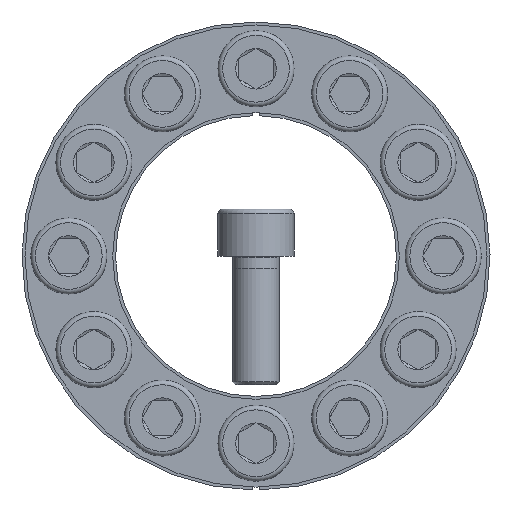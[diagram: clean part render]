
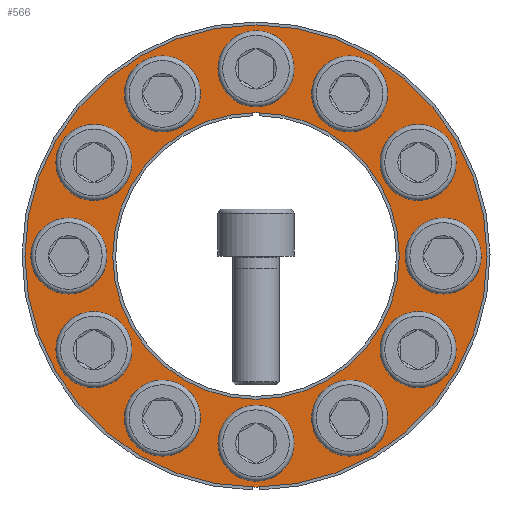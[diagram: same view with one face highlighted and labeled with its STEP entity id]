
A CAD part, front view. The second image highlights one B-rep face of the part: STEP entity #566.
In plain terms, the highlighted planar face has unit normal (0, -1, 0).
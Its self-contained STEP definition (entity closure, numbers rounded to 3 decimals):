
#566 = ADVANCED_FACE( '', ( #1068, #1069, #1070, #1071, #1072, #1073, #1074, #1075, #1076, #1077, #1078, #1079, #1080, #1081 ), #1082, .T. );
#1068 = FACE_BOUND( '', #1929, .T. );
#1069 = FACE_BOUND( '', #1930, .T. );
#1070 = FACE_BOUND( '', #1931, .T. );
#1071 = FACE_BOUND( '', #1932, .T. );
#1072 = FACE_BOUND( '', #1933, .T. );
#1073 = FACE_BOUND( '', #1934, .T. );
#1074 = FACE_BOUND( '', #1935, .T. );
#1075 = FACE_BOUND( '', #1936, .T. );
#1076 = FACE_BOUND( '', #1937, .T. );
#1077 = FACE_BOUND( '', #1938, .T. );
#1078 = FACE_BOUND( '', #1939, .T. );
#1079 = FACE_BOUND( '', #1940, .T. );
#1080 = FACE_BOUND( '', #1941, .T. );
#1081 = FACE_OUTER_BOUND( '', #1942, .T. );
#1082 = PLANE( '', #1943 );
#1929 = EDGE_LOOP( '', ( #2815 ) );
#1930 = EDGE_LOOP( '', ( #2816 ) );
#1931 = EDGE_LOOP( '', ( #2817 ) );
#1932 = EDGE_LOOP( '', ( #2818 ) );
#1933 = EDGE_LOOP( '', ( #2819 ) );
#1934 = EDGE_LOOP( '', ( #2820 ) );
#1935 = EDGE_LOOP( '', ( #2821 ) );
#1936 = EDGE_LOOP( '', ( #2822 ) );
#1937 = EDGE_LOOP( '', ( #2823 ) );
#1938 = EDGE_LOOP( '', ( #2824 ) );
#1939 = EDGE_LOOP( '', ( #2825 ) );
#1940 = EDGE_LOOP( '', ( #2826 ) );
#1941 = EDGE_LOOP( '', ( #2827 ) );
#1942 = EDGE_LOOP( '', ( #2828 ) );
#1943 = AXIS2_PLACEMENT_3D( '', #2829, #2830, #2831 );
#2815 = ORIENTED_EDGE( '', *, *, #4842, .T. );
#2816 = ORIENTED_EDGE( '', *, *, #4843, .T. );
#2817 = ORIENTED_EDGE( '', *, *, #4844, .T. );
#2818 = ORIENTED_EDGE( '', *, *, #4845, .T. );
#2819 = ORIENTED_EDGE( '', *, *, #4846, .T. );
#2820 = ORIENTED_EDGE( '', *, *, #4847, .T. );
#2821 = ORIENTED_EDGE( '', *, *, #4848, .T. );
#2822 = ORIENTED_EDGE( '', *, *, #4849, .T. );
#2823 = ORIENTED_EDGE( '', *, *, #4850, .T. );
#2824 = ORIENTED_EDGE( '', *, *, #4851, .T. );
#2825 = ORIENTED_EDGE( '', *, *, #4852, .T. );
#2826 = ORIENTED_EDGE( '', *, *, #4853, .T. );
#2827 = ORIENTED_EDGE( '', *, *, #4854, .F. );
#2828 = ORIENTED_EDGE( '', *, *, #4855, .T. );
#2829 = CARTESIAN_POINT( '', ( 0., -12., -40. ) );
#2830 = DIRECTION( '', ( 0., -1., 0. ) );
#2831 = DIRECTION( '', ( 0., 0., -1. ) );
#4842 = EDGE_CURVE( '', #5388, #5388, #5389, .T. );
#4843 = EDGE_CURVE( '', #5390, #5390, #5391, .T. );
#4844 = EDGE_CURVE( '', #5392, #5392, #5393, .T. );
#4845 = EDGE_CURVE( '', #5394, #5394, #5395, .T. );
#4846 = EDGE_CURVE( '', #5396, #5396, #5397, .T. );
#4847 = EDGE_CURVE( '', #5398, #5398, #5399, .T. );
#4848 = EDGE_CURVE( '', #5400, #5400, #5401, .T. );
#4849 = EDGE_CURVE( '', #5402, #5402, #5403, .T. );
#4850 = EDGE_CURVE( '', #5404, #5404, #5405, .T. );
#4851 = EDGE_CURVE( '', #5406, #5406, #5407, .T. );
#4852 = EDGE_CURVE( '', #5408, #5408, #5409, .T. );
#4853 = EDGE_CURVE( '', #5410, #5410, #5411, .T. );
#4854 = EDGE_CURVE( '', #5412, #5412, #5413, .T. );
#4855 = EDGE_CURVE( '', #5414, #5414, #5415, .T. );
#5388 = VERTEX_POINT( '', #6174 );
#5389 = CIRCLE( '', #6175, 4. );
#5390 = VERTEX_POINT( '', #6176 );
#5391 = CIRCLE( '', #6177, 4. );
#5392 = VERTEX_POINT( '', #6178 );
#5393 = CIRCLE( '', #6179, 4. );
#5394 = VERTEX_POINT( '', #6180 );
#5395 = CIRCLE( '', #6181, 4. );
#5396 = VERTEX_POINT( '', #6182 );
#5397 = CIRCLE( '', #6183, 4. );
#5398 = VERTEX_POINT( '', #6184 );
#5399 = CIRCLE( '', #6185, 4. );
#5400 = VERTEX_POINT( '', #6186 );
#5401 = CIRCLE( '', #6187, 4. );
#5402 = VERTEX_POINT( '', #6188 );
#5403 = CIRCLE( '', #6189, 4. );
#5404 = VERTEX_POINT( '', #6190 );
#5405 = CIRCLE( '', #6191, 4. );
#5406 = VERTEX_POINT( '', #6192 );
#5407 = CIRCLE( '', #6193, 4. );
#5408 = VERTEX_POINT( '', #6194 );
#5409 = CIRCLE( '', #6195, 4. );
#5410 = VERTEX_POINT( '', #6196 );
#5411 = CIRCLE( '', #6197, 4. );
#5412 = VERTEX_POINT( '', #6198 );
#5413 = CIRCLE( '', #6199, 24.5 );
#5414 = VERTEX_POINT( '', #6200 );
#5415 = CIRCLE( '', #6201, 39.5 );
#6174 = CARTESIAN_POINT( '', ( -16., -12., 23.713 ) );
#6175 = AXIS2_PLACEMENT_3D( '', #7652, #7653, #7654 );
#6176 = CARTESIAN_POINT( '', ( -27.713, -12., 12. ) );
#6177 = AXIS2_PLACEMENT_3D( '', #7655, #7656, #7657 );
#6178 = CARTESIAN_POINT( '', ( -32., -12., -4. ) );
#6179 = AXIS2_PLACEMENT_3D( '', #7658, #7659, #7660 );
#6180 = CARTESIAN_POINT( '', ( -27.713, -12., -20. ) );
#6181 = AXIS2_PLACEMENT_3D( '', #7661, #7662, #7663 );
#6182 = CARTESIAN_POINT( '', ( -16., -12., -31.713 ) );
#6183 = AXIS2_PLACEMENT_3D( '', #7664, #7665, #7666 );
#6184 = CARTESIAN_POINT( '', ( 0., -12., -36. ) );
#6185 = AXIS2_PLACEMENT_3D( '', #7667, #7668, #7669 );
#6186 = CARTESIAN_POINT( '', ( 16., -12., -31.713 ) );
#6187 = AXIS2_PLACEMENT_3D( '', #7670, #7671, #7672 );
#6188 = CARTESIAN_POINT( '', ( 27.713, -12., -20. ) );
#6189 = AXIS2_PLACEMENT_3D( '', #7673, #7674, #7675 );
#6190 = CARTESIAN_POINT( '', ( 32., -12., -4. ) );
#6191 = AXIS2_PLACEMENT_3D( '', #7676, #7677, #7678 );
#6192 = CARTESIAN_POINT( '', ( 27.713, -12., 12. ) );
#6193 = AXIS2_PLACEMENT_3D( '', #7679, #7680, #7681 );
#6194 = CARTESIAN_POINT( '', ( 16., -12., 23.713 ) );
#6195 = AXIS2_PLACEMENT_3D( '', #7682, #7683, #7684 );
#6196 = CARTESIAN_POINT( '', ( 0., -12., 28. ) );
#6197 = AXIS2_PLACEMENT_3D( '', #7685, #7686, #7687 );
#6198 = CARTESIAN_POINT( '', ( 0., -12., -24.5 ) );
#6199 = AXIS2_PLACEMENT_3D( '', #7688, #7689, #7690 );
#6200 = CARTESIAN_POINT( '', ( 0., -12., -39.5 ) );
#6201 = AXIS2_PLACEMENT_3D( '', #7691, #7692, #7693 );
#7652 = CARTESIAN_POINT( '', ( -16., -12., 27.713 ) );
#7653 = DIRECTION( '', ( 0., 1., 0. ) );
#7654 = DIRECTION( '', ( 0., 0., -1. ) );
#7655 = CARTESIAN_POINT( '', ( -27.713, -12., 16. ) );
#7656 = DIRECTION( '', ( 0., 1., 0. ) );
#7657 = DIRECTION( '', ( 0., 0., -1. ) );
#7658 = CARTESIAN_POINT( '', ( -32., -12., 0. ) );
#7659 = DIRECTION( '', ( 0., 1., 0. ) );
#7660 = DIRECTION( '', ( 0., 0., -1. ) );
#7661 = CARTESIAN_POINT( '', ( -27.713, -12., -16. ) );
#7662 = DIRECTION( '', ( 0., 1., 0. ) );
#7663 = DIRECTION( '', ( 0., 0., -1. ) );
#7664 = CARTESIAN_POINT( '', ( -16., -12., -27.713 ) );
#7665 = DIRECTION( '', ( 0., 1., 0. ) );
#7666 = DIRECTION( '', ( 0., 0., -1. ) );
#7667 = CARTESIAN_POINT( '', ( 0., -12., -32. ) );
#7668 = DIRECTION( '', ( 0., 1., 0. ) );
#7669 = DIRECTION( '', ( 0., 0., -1. ) );
#7670 = CARTESIAN_POINT( '', ( 16., -12., -27.713 ) );
#7671 = DIRECTION( '', ( 0., 1., 0. ) );
#7672 = DIRECTION( '', ( 0., 0., -1. ) );
#7673 = CARTESIAN_POINT( '', ( 27.713, -12., -16. ) );
#7674 = DIRECTION( '', ( 0., 1., 0. ) );
#7675 = DIRECTION( '', ( 0., 0., -1. ) );
#7676 = CARTESIAN_POINT( '', ( 32., -12., 0. ) );
#7677 = DIRECTION( '', ( 0., 1., 0. ) );
#7678 = DIRECTION( '', ( 0., 0., -1. ) );
#7679 = CARTESIAN_POINT( '', ( 27.713, -12., 16. ) );
#7680 = DIRECTION( '', ( 0., 1., 0. ) );
#7681 = DIRECTION( '', ( 0., 0., -1. ) );
#7682 = CARTESIAN_POINT( '', ( 16., -12., 27.713 ) );
#7683 = DIRECTION( '', ( 0., 1., 0. ) );
#7684 = DIRECTION( '', ( 0., 0., -1. ) );
#7685 = CARTESIAN_POINT( '', ( 0., -12., 32. ) );
#7686 = DIRECTION( '', ( 0., 1., 0. ) );
#7687 = DIRECTION( '', ( 0., 0., -1. ) );
#7688 = CARTESIAN_POINT( '', ( 0., -12., 0. ) );
#7689 = DIRECTION( '', ( 0., -1., 0. ) );
#7690 = DIRECTION( '', ( 0., 0., -1. ) );
#7691 = CARTESIAN_POINT( '', ( 0., -12., 0. ) );
#7692 = DIRECTION( '', ( 0., -1., 0. ) );
#7693 = DIRECTION( '', ( 0., 0., -1. ) );
